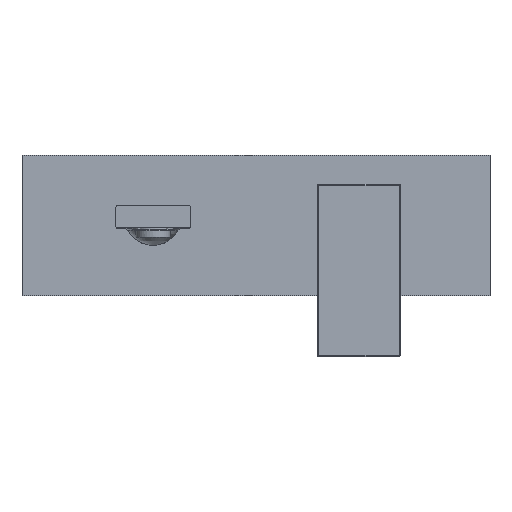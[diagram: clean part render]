
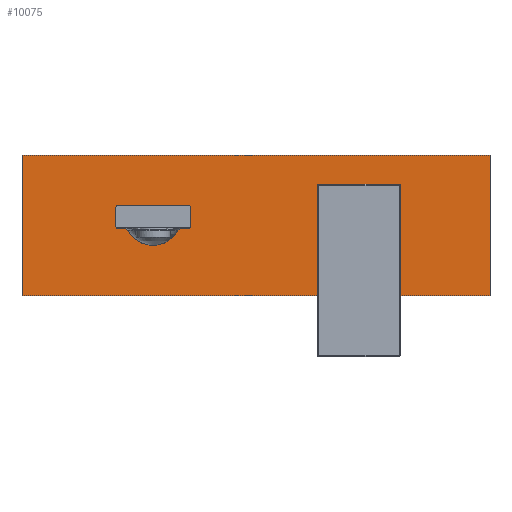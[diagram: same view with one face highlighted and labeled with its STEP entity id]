
A CAD part, top view. The second image highlights one B-rep face of the part: STEP entity #10075.
In plain terms, the highlighted planar face has unit normal (0, 0, 1).
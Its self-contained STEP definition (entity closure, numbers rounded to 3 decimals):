
#2544=DIRECTION('',(0.,-1.,0.));
#2545=VECTOR('',#2544,75.);
#2546=CARTESIAN_POINT('',(-182.,37.5,45.7));
#2547=LINE('',#2546,#2545);
#2548=DIRECTION('',(-1.,0.,0.));
#2549=VECTOR('',#2548,250.);
#2550=CARTESIAN_POINT('',(68.,37.5,45.7));
#2551=LINE('',#2550,#2549);
#2552=DIRECTION('',(0.,1.,0.));
#2553=VECTOR('',#2552,75.);
#2554=CARTESIAN_POINT('',(68.,-37.5,45.7));
#2555=LINE('',#2554,#2553);
#2556=DIRECTION('',(1.,0.,0.));
#2557=VECTOR('',#2556,250.);
#2558=CARTESIAN_POINT('',(-182.,-37.5,45.7));
#2559=LINE('',#2558,#2557);
#2560=CARTESIAN_POINT('',(-2.,0.,45.7));
#2561=DIRECTION('',(0.,0.,1.));
#2562=DIRECTION('',(1.,0.,0.));
#2563=AXIS2_PLACEMENT_3D('',#2560,#2561,#2562);
#2565=CARTESIAN_POINT('',(-2.,0.,45.7));
#2566=DIRECTION('',(0.,0.,1.));
#2567=DIRECTION('',(-1.,0.,0.));
#2568=AXIS2_PLACEMENT_3D('',#2565,#2566,#2567);
#2570=DIRECTION('',(0.,-1.,0.));
#2571=VECTOR('',#2570,9.);
#2572=CARTESIAN_POINT('',(-92.,9.,45.7));
#2573=LINE('',#2572,#2571);
#2574=CARTESIAN_POINT('',(-112.,4.5,45.7));
#2575=DIRECTION('',(0.,0.,-1.));
#2576=DIRECTION('',(0.956,0.293,0.));
#2577=AXIS2_PLACEMENT_3D('',#2574,#2575,#2576);
#2579=DIRECTION('',(1.,0.,0.));
#2580=VECTOR('',#2579,39.205);
#2581=CARTESIAN_POINT('',(-131.602,10.5,45.7));
#2582=LINE('',#2581,#2580);
#2583=CARTESIAN_POINT('',(-112.,4.5,45.7));
#2584=DIRECTION('',(0.,0.,-1.));
#2585=DIRECTION('',(-0.976,0.22,0.));
#2586=AXIS2_PLACEMENT_3D('',#2583,#2584,#2585);
#2588=DIRECTION('',(0.,1.,0.));
#2589=VECTOR('',#2588,9.);
#2590=CARTESIAN_POINT('',(-132.,0.,45.7));
#2591=LINE('',#2590,#2589);
#2592=CARTESIAN_POINT('',(-112.,4.5,45.7));
#2593=DIRECTION('',(0.,0.,-1.));
#2594=DIRECTION('',(-0.956,-0.293,0.));
#2595=AXIS2_PLACEMENT_3D('',#2592,#2593,#2594);
#2597=DIRECTION('',(-1.,0.,0.));
#2598=VECTOR('',#2597,4.922);
#2599=CARTESIAN_POINT('',(-126.68,-1.5,45.7));
#2600=LINE('',#2599,#2598);
#2601=DIRECTION('',(-0.819,0.574,0.));
#2602=VECTOR('',#2601,1.715);
#2603=CARTESIAN_POINT('',(-125.275,-2.484,45.7));
#2604=LINE('',#2603,#2602);
#2605=CARTESIAN_POINT('',(-125.275,-2.484,45.7));
#2606=CARTESIAN_POINT('',(-124.432,-4.086,45.7));
#2607=CARTESIAN_POINT('',(-122.159,-6.982,45.7));
#2608=CARTESIAN_POINT('',(-117.432,-9.837,45.7));
#2609=CARTESIAN_POINT('',(-113.811,-10.5,45.7));
#2610=CARTESIAN_POINT('',(-112.,-10.5,45.7));
#2612=CARTESIAN_POINT('',(-112.,-10.5,45.7));
#2613=CARTESIAN_POINT('',(-110.189,-10.5,45.7));
#2614=CARTESIAN_POINT('',(-106.568,-9.837,45.7));
#2615=CARTESIAN_POINT('',(-101.841,-6.982,45.7));
#2616=CARTESIAN_POINT('',(-99.568,-4.086,45.7));
#2617=CARTESIAN_POINT('',(-98.725,-2.484,45.7));
#2619=DIRECTION('',(-0.819,-0.574,0.));
#2620=VECTOR('',#2619,1.715);
#2621=CARTESIAN_POINT('',(-97.32,-1.5,45.7));
#2622=LINE('',#2621,#2620);
#2623=DIRECTION('',(-1.,0.,0.));
#2624=VECTOR('',#2623,4.922);
#2625=CARTESIAN_POINT('',(-92.398,-1.5,45.7));
#2626=LINE('',#2625,#2624);
#2627=CARTESIAN_POINT('',(-112.,4.5,45.7));
#2628=DIRECTION('',(0.,0.,-1.));
#2629=DIRECTION('',(0.976,-0.22,0.));
#2630=AXIS2_PLACEMENT_3D('',#2627,#2628,#2629);
#7581=CARTESIAN_POINT('',(-182.,-37.5,45.7));
#7582=CARTESIAN_POINT('',(68.,-37.5,45.7));
#7583=VERTEX_POINT('',#7581);
#7584=VERTEX_POINT('',#7582);
#7585=CARTESIAN_POINT('',(68.,37.5,45.7));
#7586=CARTESIAN_POINT('',(-182.,37.5,45.7));
#7587=VERTEX_POINT('',#7585);
#7588=VERTEX_POINT('',#7586);
#7597=CARTESIAN_POINT('',(18.25,0.,45.7));
#7598=CARTESIAN_POINT('',(-22.25,0.,45.7));
#7599=VERTEX_POINT('',#7597);
#7600=VERTEX_POINT('',#7598);
#7829=CARTESIAN_POINT('',(-92.,9.,45.7));
#7830=CARTESIAN_POINT('',(-92.,0.,45.7));
#7831=VERTEX_POINT('',#7829);
#7832=VERTEX_POINT('',#7830);
#7833=CARTESIAN_POINT('',(-92.398,-1.5,45.7));
#7834=CARTESIAN_POINT('',(-97.32,-1.5,45.7));
#7835=VERTEX_POINT('',#7833);
#7836=VERTEX_POINT('',#7834);
#7837=CARTESIAN_POINT('',(-126.68,-1.5,45.7));
#7838=CARTESIAN_POINT('',(-131.602,-1.5,45.7));
#7839=VERTEX_POINT('',#7837);
#7840=VERTEX_POINT('',#7838);
#7841=CARTESIAN_POINT('',(-132.,0.,45.7));
#7842=CARTESIAN_POINT('',(-132.,9.,45.7));
#7843=VERTEX_POINT('',#7841);
#7844=VERTEX_POINT('',#7842);
#7845=CARTESIAN_POINT('',(-131.602,10.5,45.7));
#7846=CARTESIAN_POINT('',(-92.398,10.5,45.7));
#7847=VERTEX_POINT('',#7845);
#7848=VERTEX_POINT('',#7846);
#7849=VERTEX_POINT('',#2612);
#7850=VERTEX_POINT('',#2617);
#7851=VERTEX_POINT('',#2605);
#10029=CARTESIAN_POINT('',(-57.,0.,45.7));
#10030=DIRECTION('',(0.,0.,1.));
#10031=DIRECTION('',(1.,0.,0.));
#10032=AXIS2_PLACEMENT_3D('',#10029,#10030,#10031);
#10033=PLANE('',#10032);
#10035=ORIENTED_EDGE('',*,*,#10034,.F.);
#10037=ORIENTED_EDGE('',*,*,#10036,.F.);
#10039=ORIENTED_EDGE('',*,*,#10038,.F.);
#10041=ORIENTED_EDGE('',*,*,#10040,.F.);
#10042=EDGE_LOOP('',(#10035,#10037,#10039,#10041));
#10043=FACE_OUTER_BOUND('',#10042,.F.);
#10045=ORIENTED_EDGE('',*,*,#10044,.T.);
#10047=ORIENTED_EDGE('',*,*,#10046,.T.);
#10048=EDGE_LOOP('',(#10045,#10047));
#10049=FACE_BOUND('',#10048,.F.);
#10051=ORIENTED_EDGE('',*,*,#10050,.F.);
#10053=ORIENTED_EDGE('',*,*,#10052,.F.);
#10055=ORIENTED_EDGE('',*,*,#10054,.F.);
#10057=ORIENTED_EDGE('',*,*,#10056,.F.);
#10059=ORIENTED_EDGE('',*,*,#10058,.F.);
#10061=ORIENTED_EDGE('',*,*,#10060,.F.);
#10062=ORIENTED_EDGE('',*,*,#9996,.F.);
#10064=ORIENTED_EDGE('',*,*,#10063,.F.);
#10066=ORIENTED_EDGE('',*,*,#10065,.T.);
#10068=ORIENTED_EDGE('',*,*,#10067,.T.);
#10069=ORIENTED_EDGE('',*,*,#10019,.F.);
#10070=ORIENTED_EDGE('',*,*,#10004,.F.);
#10072=ORIENTED_EDGE('',*,*,#10071,.F.);
#10073=EDGE_LOOP('',(#10051,#10053,#10055,#10057,#10059,#10061,#10062,#10064,
#10066,#10068,#10069,#10070,#10072));
#10074=FACE_BOUND('',#10073,.F.);
#10075=ADVANCED_FACE('',(#10043,#10049,#10074),#10033,.T.);
#2564=CIRCLE('',#2563,20.25);
#2569=CIRCLE('',#2568,20.25);
#2578=CIRCLE('',#2577,20.5);
#2587=CIRCLE('',#2586,20.5);
#2596=CIRCLE('',#2595,20.5);
#2611=B_SPLINE_CURVE_WITH_KNOTS('',3,(#2605,#2606,#2607,#2608,#2609,#2610),
.UNSPECIFIED.,.F.,.F.,(4,1,1,4),(0.,0.333,0.667,1.),
.UNSPECIFIED.);
#2618=B_SPLINE_CURVE_WITH_KNOTS('',3,(#2612,#2613,#2614,#2615,#2616,#2617),
.UNSPECIFIED.,.F.,.F.,(4,1,1,4),(0.,0.333,0.667,1.),
.UNSPECIFIED.);
#2631=CIRCLE('',#2630,20.5);
#9996=EDGE_CURVE('',#7839,#7840,#2600,.T.);
#10004=EDGE_CURVE('',#7835,#7836,#2626,.T.);
#10019=EDGE_CURVE('',#7836,#7850,#2622,.T.);
#10034=EDGE_CURVE('',#7588,#7583,#2547,.T.);
#10036=EDGE_CURVE('',#7587,#7588,#2551,.T.);
#10038=EDGE_CURVE('',#7584,#7587,#2555,.T.);
#10040=EDGE_CURVE('',#7583,#7584,#2559,.T.);
#10044=EDGE_CURVE('',#7599,#7600,#2564,.T.);
#10046=EDGE_CURVE('',#7600,#7599,#2569,.T.);
#10050=EDGE_CURVE('',#7831,#7832,#2573,.T.);
#10052=EDGE_CURVE('',#7848,#7831,#2578,.T.);
#10054=EDGE_CURVE('',#7847,#7848,#2582,.T.);
#10056=EDGE_CURVE('',#7844,#7847,#2587,.T.);
#10058=EDGE_CURVE('',#7843,#7844,#2591,.T.);
#10060=EDGE_CURVE('',#7840,#7843,#2596,.T.);
#10063=EDGE_CURVE('',#7851,#7839,#2604,.T.);
#10065=EDGE_CURVE('',#7851,#7849,#2611,.T.);
#10067=EDGE_CURVE('',#7849,#7850,#2618,.T.);
#10071=EDGE_CURVE('',#7832,#7835,#2631,.T.);
